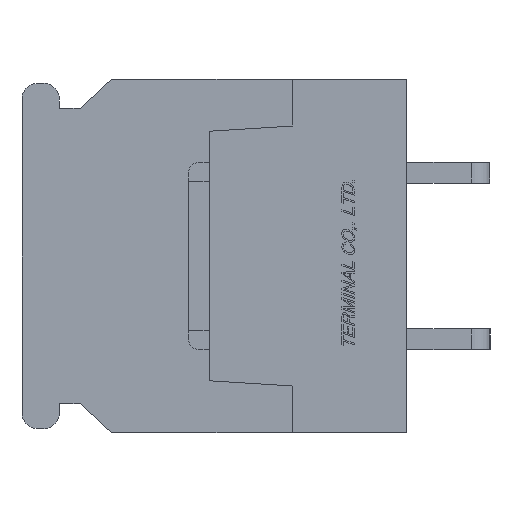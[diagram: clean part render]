
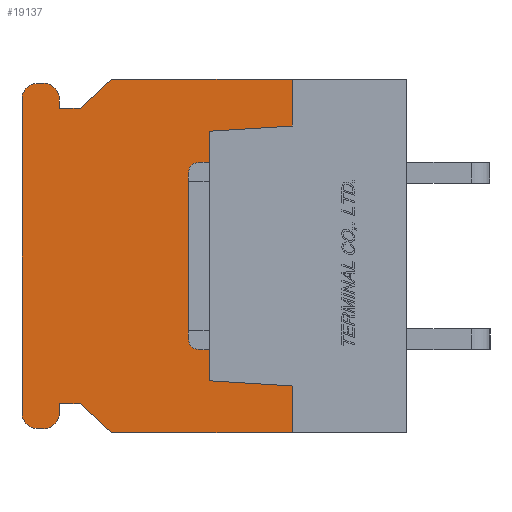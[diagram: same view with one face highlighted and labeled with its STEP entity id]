
A CAD part, left-side view. The second image highlights one B-rep face of the part: STEP entity #19137.
In plain terms, the highlighted planar face has unit normal (-1, 0, 0).
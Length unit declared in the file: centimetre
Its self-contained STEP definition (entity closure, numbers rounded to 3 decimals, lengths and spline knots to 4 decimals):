
#1127=CIRCLE('',#32890,0.075);
#1128=CIRCLE('',#32891,0.075);
#1129=CIRCLE('',#32892,0.075);
#1130=CIRCLE('',#32893,0.075);
#2093=VERTEX_POINT('',#27706);
#2094=VERTEX_POINT('',#27708);
#2146=VERTEX_POINT('',#27842);
#2147=VERTEX_POINT('',#27844);
#2349=VERTEX_POINT('',#28534);
#2350=VERTEX_POINT('',#28536);
#2351=VERTEX_POINT('',#28538);
#2352=VERTEX_POINT('',#28540);
#2353=VERTEX_POINT('',#28542);
#2354=VERTEX_POINT('',#28544);
#2355=VERTEX_POINT('',#28546);
#2356=VERTEX_POINT('',#28548);
#2357=VERTEX_POINT('',#28550);
#2358=VERTEX_POINT('',#28552);
#2359=VERTEX_POINT('',#28554);
#2360=VERTEX_POINT('',#28556);
#2361=VERTEX_POINT('',#28558);
#2362=VERTEX_POINT('',#28561);
#2363=VERTEX_POINT('',#28563);
#2364=VERTEX_POINT('',#28565);
#3960=VECTOR('',#22684,1.);
#4025=VECTOR('',#22775,1.);
#4318=VECTOR('',#23347,1.);
#4319=VECTOR('',#23348,1.);
#4320=VECTOR('',#23349,1.);
#4321=VECTOR('',#23350,1.);
#4322=VECTOR('',#23353,1.);
#4323=VECTOR('',#23356,1.);
#4324=VECTOR('',#23359,1.);
#4325=VECTOR('',#23362,1.);
#4326=VECTOR('',#23363,1.);
#4327=VECTOR('',#23364,1.);
#4328=VECTOR('',#23365,1.);
#4329=VECTOR('',#23366,1.);
#4330=VECTOR('',#23367,1.);
#4331=VECTOR('',#23368,1.);
#6090=LINE('',#27707,#3960);
#6155=LINE('',#27843,#4025);
#6448=LINE('',#28533,#4318);
#6449=LINE('',#28535,#4319);
#6450=LINE('',#28537,#4320);
#6451=LINE('',#28539,#4321);
#6452=LINE('',#28543,#4322);
#6453=LINE('',#28547,#4323);
#6454=LINE('',#28551,#4324);
#6455=LINE('',#28555,#4325);
#6456=LINE('',#28557,#4326);
#6457=LINE('',#28559,#4327);
#6458=LINE('',#28560,#4328);
#6459=LINE('',#28562,#4329);
#6460=LINE('',#28564,#4330);
#6461=LINE('',#28566,#4331);
#8698=EDGE_CURVE('',#2093,#2094,#6090,.T.);
#8767=EDGE_CURVE('',#2146,#2147,#6155,.T.);
#9116=EDGE_CURVE('',#2349,#2147,#6448,.T.);
#9117=EDGE_CURVE('',#2350,#2146,#6449,.T.);
#9118=EDGE_CURVE('',#2351,#2350,#6450,.T.);
#9119=EDGE_CURVE('',#2352,#2351,#6451,.T.);
#9120=EDGE_CURVE('',#2353,#2352,#1127,.T.);
#9121=EDGE_CURVE('',#2354,#2353,#6452,.T.);
#9122=EDGE_CURVE('',#2355,#2354,#1128,.T.);
#9123=EDGE_CURVE('',#2356,#2355,#6453,.T.);
#9124=EDGE_CURVE('',#2357,#2356,#1129,.T.);
#9125=EDGE_CURVE('',#2358,#2357,#6454,.T.);
#9126=EDGE_CURVE('',#2359,#2358,#1130,.T.);
#9127=EDGE_CURVE('',#2360,#2359,#6455,.T.);
#9128=EDGE_CURVE('',#2361,#2360,#6456,.T.);
#9129=EDGE_CURVE('',#2094,#2361,#6457,.T.);
#9130=EDGE_CURVE('',#2093,#2362,#6458,.T.);
#9131=EDGE_CURVE('',#2362,#2363,#6459,.T.);
#9132=EDGE_CURVE('',#2363,#2364,#6460,.T.);
#9133=EDGE_CURVE('',#2364,#2349,#6461,.T.);
#13694=ORIENTED_EDGE('',*,*,#9116,.T.);
#13695=ORIENTED_EDGE('',*,*,#8767,.F.);
#13696=ORIENTED_EDGE('',*,*,#9117,.F.);
#13697=ORIENTED_EDGE('',*,*,#9118,.F.);
#13698=ORIENTED_EDGE('',*,*,#9119,.F.);
#13699=ORIENTED_EDGE('',*,*,#9120,.F.);
#13700=ORIENTED_EDGE('',*,*,#9121,.F.);
#13701=ORIENTED_EDGE('',*,*,#9122,.F.);
#13702=ORIENTED_EDGE('',*,*,#9123,.F.);
#13703=ORIENTED_EDGE('',*,*,#9124,.F.);
#13704=ORIENTED_EDGE('',*,*,#9125,.F.);
#13705=ORIENTED_EDGE('',*,*,#9126,.F.);
#13706=ORIENTED_EDGE('',*,*,#9127,.F.);
#13707=ORIENTED_EDGE('',*,*,#9128,.F.);
#13708=ORIENTED_EDGE('',*,*,#9129,.F.);
#13709=ORIENTED_EDGE('',*,*,#8698,.F.);
#13710=ORIENTED_EDGE('',*,*,#9130,.T.);
#13711=ORIENTED_EDGE('',*,*,#9131,.T.);
#13712=ORIENTED_EDGE('',*,*,#9132,.T.);
#13713=ORIENTED_EDGE('',*,*,#9133,.T.);
#16789=EDGE_LOOP('',(#13694,#13695,#13696,#13697,#13698,#13699,#13700,#13701,
#13702,#13703,#13704,#13705,#13706,#13707,#13708,#13709,#13710,#13711,#13712,
#13713));
#18011=FACE_BOUND('',#16789,.T.);
#19137=ADVANCED_FACE('',(#18011),#20054,.F.);
#20054=PLANE('',#32889);
#22684=DIRECTION('',(0.,1.,0.));
#22775=DIRECTION('',(0.,-1.,0.));
#23346=DIRECTION('',(1.,0.,0.));
#23347=DIRECTION('',(0.,0.,1.));
#23348=DIRECTION('',(0.,-0.731,0.682));
#23349=DIRECTION('',(0.,-1.,0.));
#23350=DIRECTION('',(0.,0.,-1.));
#23351=DIRECTION('',(1.,0.,0.));
#23352=DIRECTION('',(0.,0.,-0.075));
#23353=DIRECTION('',(0.,-1.,0.));
#23354=DIRECTION('',(1.,0.,0.));
#23355=DIRECTION('',(0.,0.,-0.075));
#23356=DIRECTION('',(0.,0.,1.));
#23357=DIRECTION('',(1.,0.,0.));
#23358=DIRECTION('',(0.,0.,-0.075));
#23359=DIRECTION('',(0.,1.,0.));
#23360=DIRECTION('',(1.,0.,0.));
#23361=DIRECTION('',(0.,0.,-0.075));
#23362=DIRECTION('',(0.,0.,-1.));
#23363=DIRECTION('',(0.,1.,0.));
#23364=DIRECTION('',(0.,0.731,0.682));
#23365=DIRECTION('',(0.,0.,1.));
#23366=DIRECTION('',(0.,0.998,0.062));
#23367=DIRECTION('',(0.,0.,1.));
#23368=DIRECTION('',(0.,-0.998,0.062));
#27706=CARTESIAN_POINT('',(-1.,0.55,-0.85));
#27707=CARTESIAN_POINT('',(-1.,0.,-0.85));
#27708=CARTESIAN_POINT('',(-1.,1.42,-0.85));
#27842=CARTESIAN_POINT('',(-1.,1.42,0.85));
#27843=CARTESIAN_POINT('',(-1.,1.42,0.85));
#27844=CARTESIAN_POINT('',(-1.,0.55,0.85));
#28532=CARTESIAN_POINT('',(-1.,0.9383,0.));
#28533=CARTESIAN_POINT('',(-1.,0.55,0.3687));
#28534=CARTESIAN_POINT('',(-1.,0.55,0.625));
#28535=CARTESIAN_POINT('',(-1.,1.57,0.71));
#28536=CARTESIAN_POINT('',(-1.,1.57,0.71));
#28537=CARTESIAN_POINT('',(-1.,1.67,0.71));
#28538=CARTESIAN_POINT('',(-1.,1.67,0.71));
#28539=CARTESIAN_POINT('',(-1.,1.67,0.755));
#28540=CARTESIAN_POINT('',(-1.,1.67,0.755));
#28541=CARTESIAN_POINT('',(-1.,1.745,0.755));
#28542=CARTESIAN_POINT('',(-1.,1.745,0.83));
#28543=CARTESIAN_POINT('',(-1.,1.775,0.83));
#28544=CARTESIAN_POINT('',(-1.,1.775,0.83));
#28545=CARTESIAN_POINT('',(-1.,1.775,0.755));
#28546=CARTESIAN_POINT('',(-1.,1.85,0.755));
#28547=CARTESIAN_POINT('',(-1.,1.85,-0.755));
#28548=CARTESIAN_POINT('',(-1.,1.85,-0.755));
#28549=CARTESIAN_POINT('',(-1.,1.775,-0.755));
#28550=CARTESIAN_POINT('',(-1.,1.775,-0.83));
#28551=CARTESIAN_POINT('',(-1.,1.745,-0.83));
#28552=CARTESIAN_POINT('',(-1.,1.745,-0.83));
#28553=CARTESIAN_POINT('',(-1.,1.745,-0.755));
#28554=CARTESIAN_POINT('',(-1.,1.67,-0.755));
#28555=CARTESIAN_POINT('',(-1.,1.67,-0.71));
#28556=CARTESIAN_POINT('',(-1.,1.67,-0.71));
#28557=CARTESIAN_POINT('',(-1.,1.57,-0.71));
#28558=CARTESIAN_POINT('',(-1.,1.57,-0.71));
#28559=CARTESIAN_POINT('',(-1.,1.42,-0.85));
#28560=CARTESIAN_POINT('',(-1.,0.55,-0.3688));
#28561=CARTESIAN_POINT('',(-1.,0.55,-0.625));
#28562=CARTESIAN_POINT('',(-1.,0.8629,-0.6054));
#28563=CARTESIAN_POINT('',(-1.,0.95,-0.6));
#28564=CARTESIAN_POINT('',(-1.,0.95,0.));
#28565=CARTESIAN_POINT('',(-1.,0.95,0.6));
#28566=CARTESIAN_POINT('',(-1.,0.8629,0.6054));
#32889=AXIS2_PLACEMENT_3D('',#28532,#23346,$);
#32890=AXIS2_PLACEMENT_3D('',#28541,#23351,#23352);
#32891=AXIS2_PLACEMENT_3D('',#28545,#23354,#23355);
#32892=AXIS2_PLACEMENT_3D('',#28549,#23357,#23358);
#32893=AXIS2_PLACEMENT_3D('',#28553,#23360,#23361);
